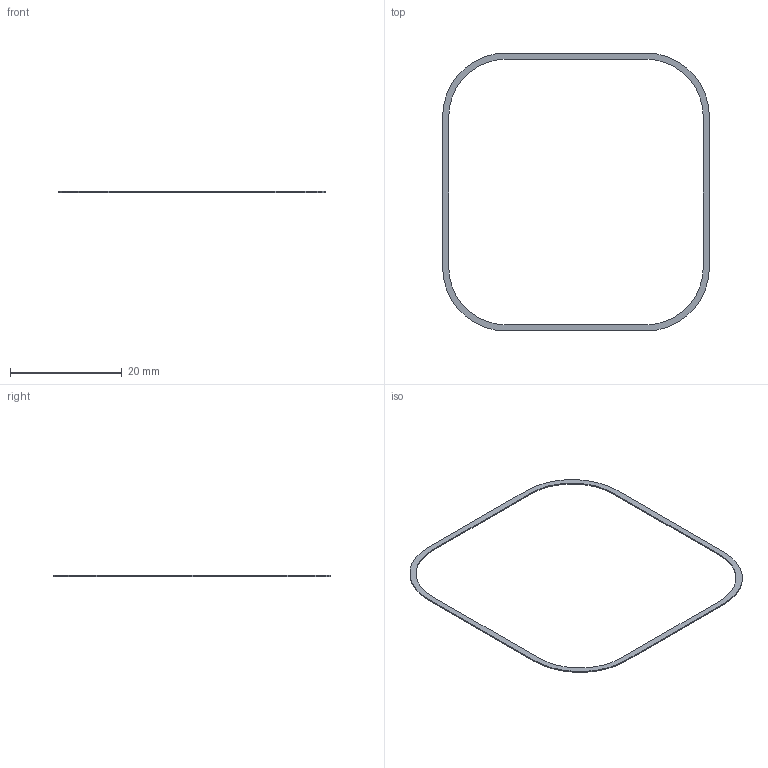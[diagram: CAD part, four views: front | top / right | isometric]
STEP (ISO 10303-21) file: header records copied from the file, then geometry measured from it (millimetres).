
FILE_DESCRIPTION(/* description */ (''),/* implementation_level */ '2;1');
FILE_NAME(/* name */ 'C28_R1_58_Grille_Perimeter_Bond_Film.step',/* time_stamp */ '2026-09-10T17:49:43-07:00',/* author */ (''),/* organization */ (''),/* preprocessor_version */ 'ST-DEVELOPER v20.1',/* originating_system */ 'Autodesk Translation Framework v15.8.0.0',/* authorisation */ '');
FILE_SCHEMA (('AUTOMOTIVE_DESIGN { 1 0 10303 214 3 1 1 }'));
Length unit declared in the file: millimetre
Products named in the file (1): 2026-09-10-17-49-43-662
Bounding box: 47.8 x 49.8 x 0.2 mm (x, y, z)
Volume: 37.9 mm3; surface area: 447.6 mm2
Topology: 1 solids, 1 shells, 18 faces, 48 edges, 32 vertices
Faces by surface type: plane 10, cylinder 8
Entity records: 605 total; most frequent: DIRECTION 102, CARTESIAN_POINT 99, ORIENTED_EDGE 96, EDGE_CURVE 48, AXIS2_PLACEMENT_3D 35, LINE 32, VECTOR 32, VERTEX_POINT 32
